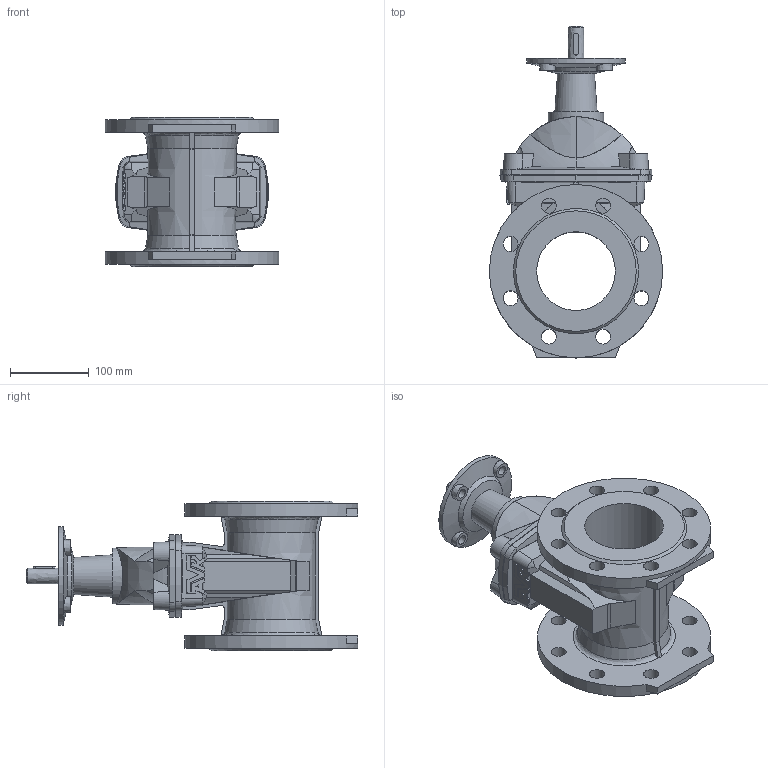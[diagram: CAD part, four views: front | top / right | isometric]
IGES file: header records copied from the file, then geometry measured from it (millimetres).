
Start section: SolidWorks IGES file using analytic representation for surfaces
Global section: file name: \\avksan2\techshare\PBM outline export from Enovia\O_15_42_DN100_X1XXX099_AA0.igs; native system: SolidWorks 2012; preprocessor: SolidWorks 2012; author: pbm; date: 170310.093757; units: inch
Bounding box: 220 x 421.43 x 190 mm (x, y, z)
Surface area: 427613.6 mm2 (no closed solid volume)
Topology: 0 solids, 0 shells, 338 faces, 1904 edges, 1816 vertices
Faces by surface type: revolution 195, bspline 143
